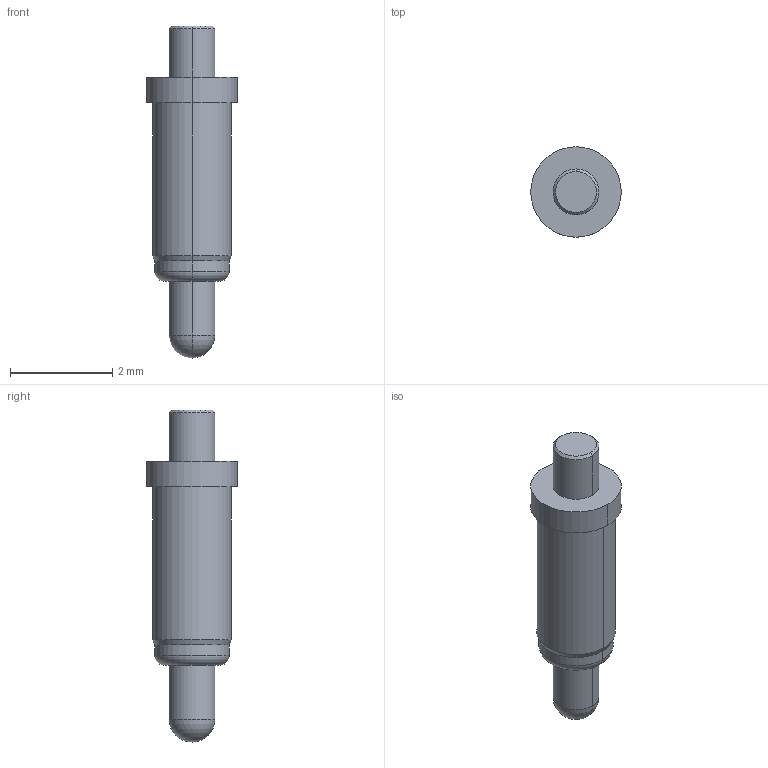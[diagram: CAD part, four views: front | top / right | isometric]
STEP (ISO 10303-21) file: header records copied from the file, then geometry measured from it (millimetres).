
FILE_DESCRIPTION((''),'2;1');
FILE_NAME('PRT0011','2023-05-26T10:58:26',('USER'),(''),'CREO PARAMETRIC BY PTC INC, 2020154','CREO PARAMETRIC BY PTC INC, 2020154','');
FILE_SCHEMA(('CONFIG_CONTROL_DESIGN'));
Length unit declared in the file: millimetre
Products named in the file (1): PRT0011
Bounding box: 1.77 x 1.77 x 6.5 mm (x, y, z)
Volume: 9.1 mm3; surface area: 30.3 mm2
Topology: 1 solids, 1 shells, 24 faces, 48 edges, 27 vertices
Faces by surface type: cylinder 12, plane 4, cone 4, torus 2, sphere 2
Entity records: 650 total; most frequent: DIRECTION 124, CARTESIAN_POINT 97, ORIENTED_EDGE 92, AXIS2_PLACEMENT_3D 54, EDGE_CURVE 46, CIRCLE 30, VERTEX_POINT 27, EDGE_LOOP 27
